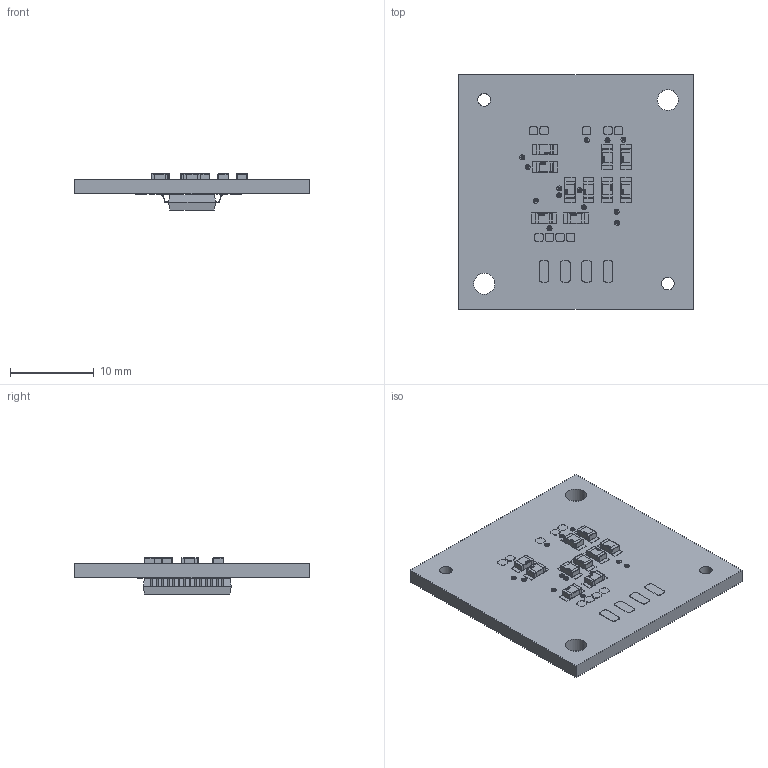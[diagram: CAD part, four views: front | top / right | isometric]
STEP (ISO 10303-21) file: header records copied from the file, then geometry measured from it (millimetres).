
FILE_DESCRIPTION (( 'STEP AP214' ), '1' );
FILE_NAME ('RMB28V_MODM153new.STEP', '2017-07-14T08:46:34', ( '' ), ( '' ), 'SwSTEP 2.0', 'SolidWorks 2016', '' );
FILE_SCHEMA (( 'AUTOMOTIVE_DESIGN' ));
Length unit declared in the file: millimetre
Products named in the file (1): RMB28V_MODM153new
Bounding box: 28 x 28 x 4.31 mm (x, y, z)
Volume: 1432.1 mm3; surface area: 2407.5 mm2
Topology: 161 solids, 161 shells, 2287 faces, 5252 edges, 3288 vertices
Faces by surface type: plane 1101, bspline 808, cylinder 378
Entity records: 141298 total; most frequent: CARTESIAN_POINT 69859, ORIENTED_EDGE 10344, DIRECTION 6427, EDGE_CURVE 5172, VERTEX_POINT 3288, VECTOR 2547, LINE 2547, EDGE_LOOP 2454
